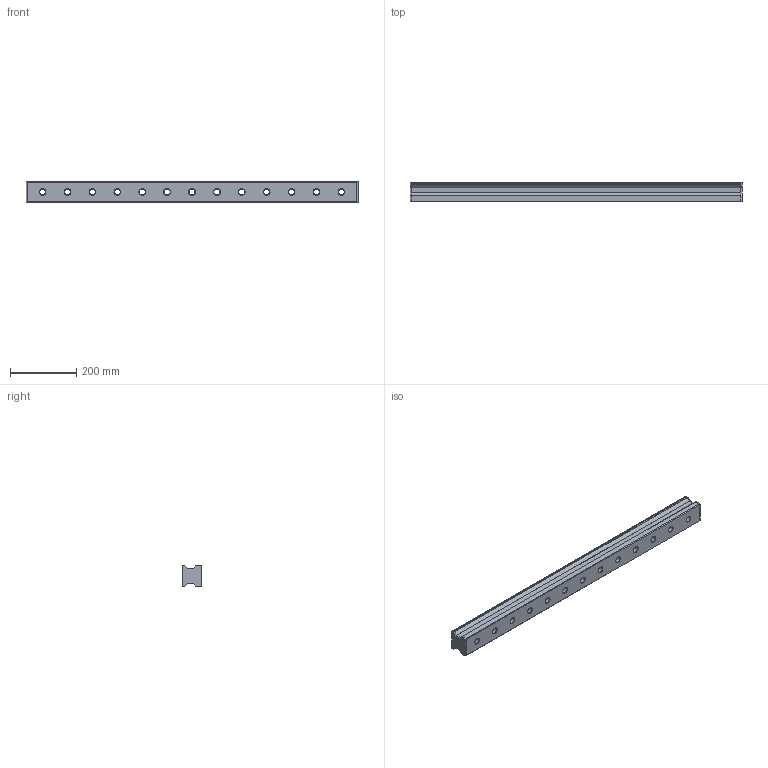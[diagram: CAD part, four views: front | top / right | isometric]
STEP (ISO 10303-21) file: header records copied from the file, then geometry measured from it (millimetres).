
FILE_DESCRIPTION(/* description */ ('STEP AP214'),/* implementation_level */ '2;1');
FILE_NAME(/* name */ 'ERG65P6-1000LA______CAD_NO_(50)',/* time_stamp */ '2026-05-18T11:23:29+02:00',/* author */ ('License CC BY-ND 4.0'),/* organization */ ('CADENAS'),/* preprocessor_version */ 'ST-DEVELOPER v20',/* originating_system */ 'PARTsolutions',/* authorisation */ ' ');
FILE_SCHEMA (('AUTOMOTIVE_DESIGN {1 0 10303 214 3 1 1}'));
Length unit declared in the file: millimetre
Products named in the file (2): ERG65P6-1000LA______CAD_NO_(50); ERG65P6-1000LA(50)_rail
Assembly tree (1 placements, depth 2):
  ERG65P6-1000LA______CAD_NO_(50)
    ERG65P6-1000LA(50)_rail
Bounding box: 1000 x 58.7 x 63 mm (x, y, z)
Volume: 2981654.6 mm3; surface area: 303931.6 mm2
Topology: 1 solids, 1 shells, 137 faces, 316 edges, 194 vertices
Faces by surface type: plane 71, cylinder 40, cone 26
Full cylindrical faces by diameter (mm): 18 x13, 26 x13
Entity records: 3685 total; most frequent: DIRECTION 656, CARTESIAN_POINT 597, ORIENTED_EDGE 528, EDGE_CURVE 264, AXIS2_PLACEMENT_3D 253, EDGE_LOOP 228, FACE_BOUND 228, VERTEX_POINT 194
